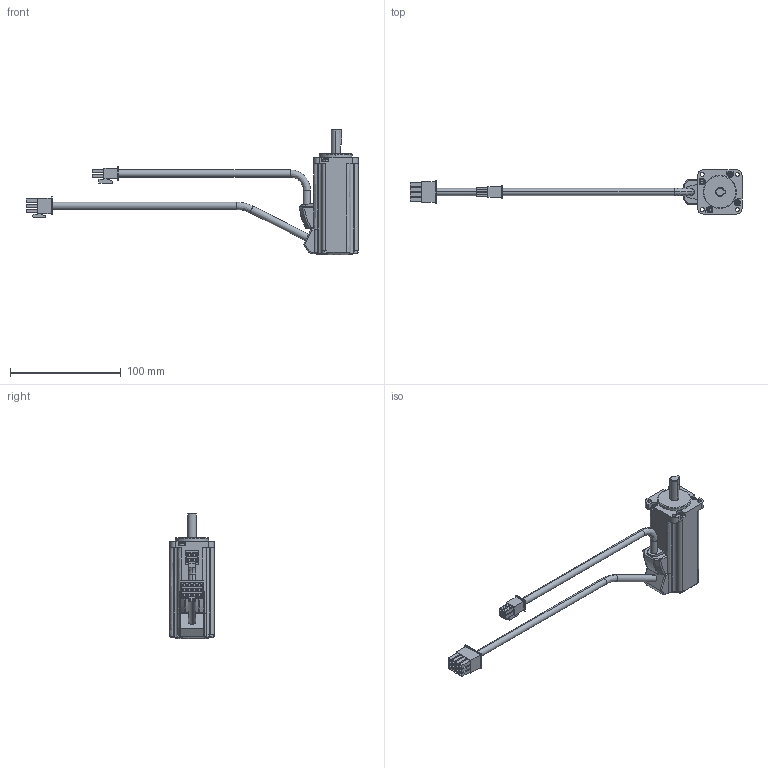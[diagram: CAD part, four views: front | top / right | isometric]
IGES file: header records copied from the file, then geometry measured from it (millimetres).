
Start section:  PTC IGES file: 10001036_rsmz-a8ba_no-brake.igs
Global section: file name: 10001036_rsmz-a8ba_no-brake.igs; native system: Pro/ENGINEER by Parametric Technology Corporation; preprocessor: 2004440; author: Administrator; organization: Unknown; date: 070829.201522; units: millimetre
Bounding box: 299.76 x 40 x 113 mm (x, y, z)
Volume: 152860.8 mm3; surface area: 33827.3 mm2
Topology: 1 solids, 1 shells, 492 faces, 1237 edges, 803 vertices
Faces by surface type: bspline 352, revolution 140
